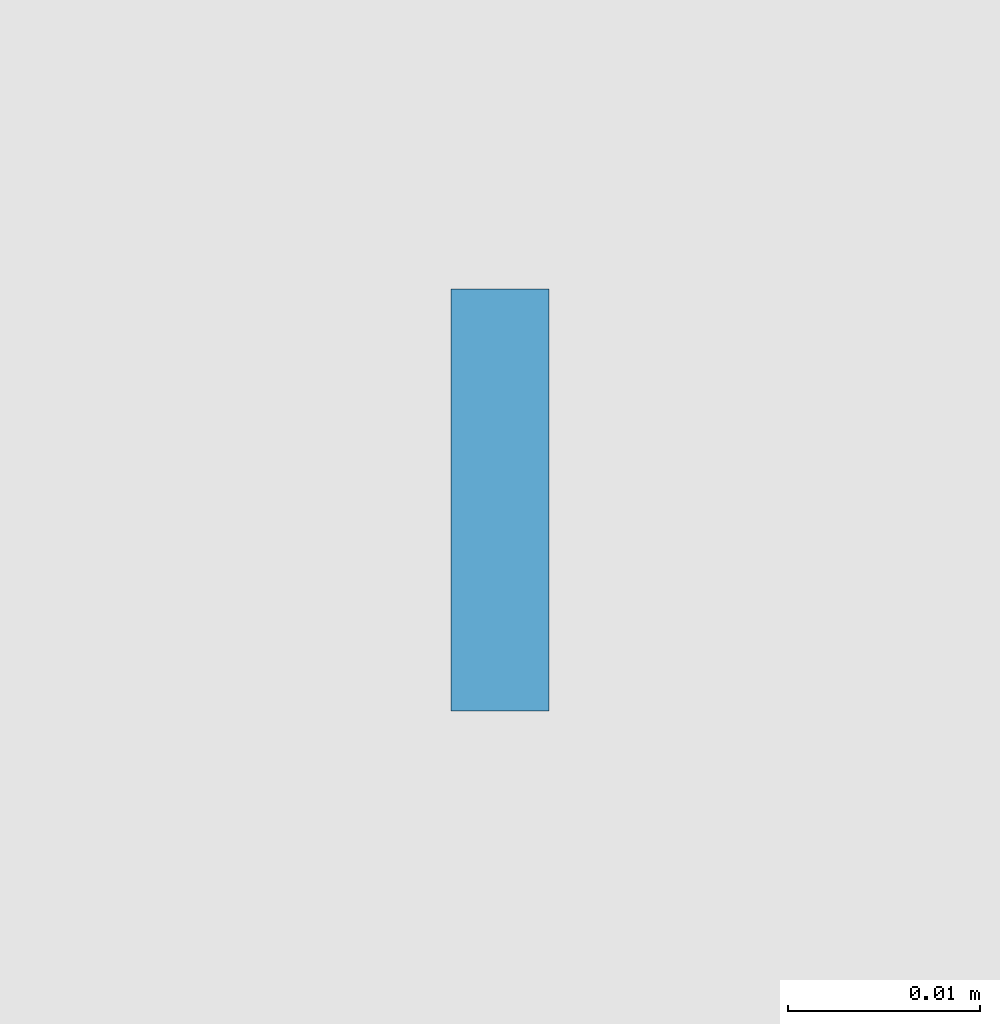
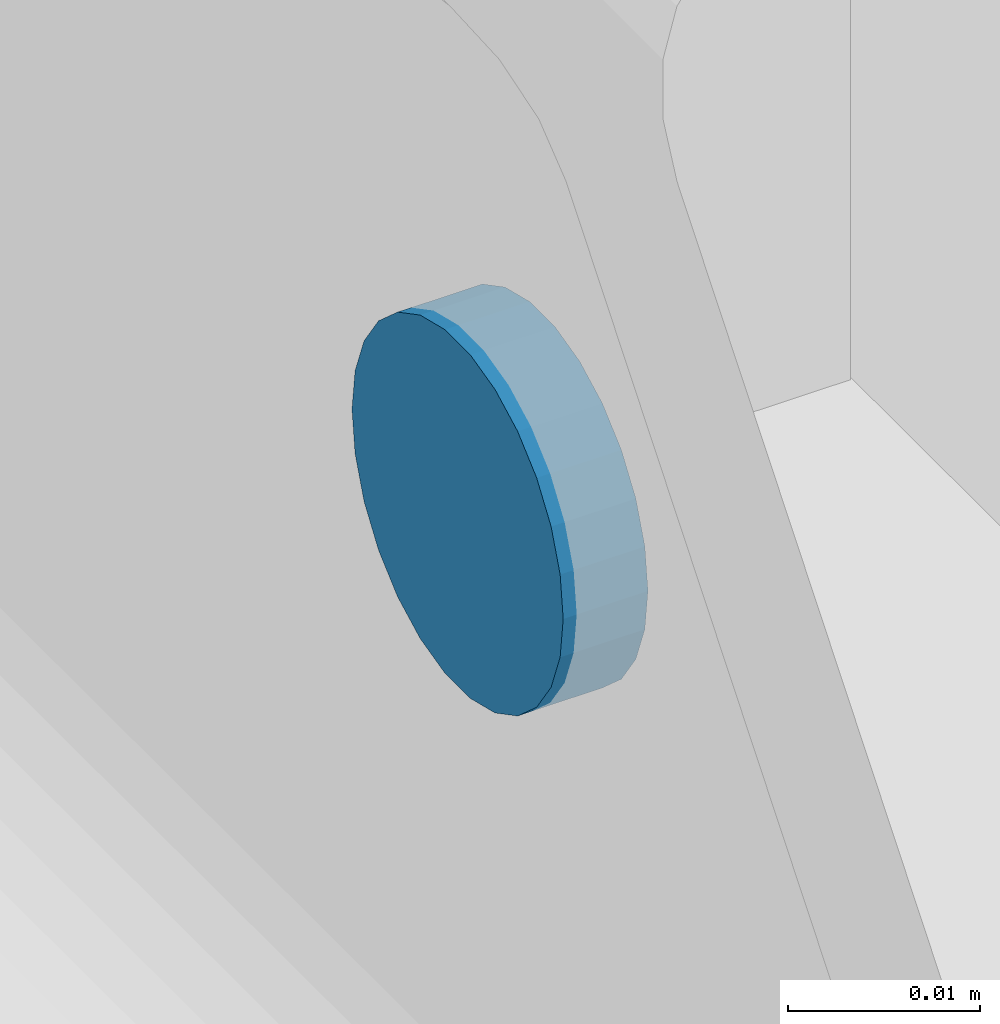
# One storey, part 297 of 362: 1 mechanical fastener.
"""IFC2X3 building model written with IfcOpenShell, lengths in millimetres."""

from ifc_helpers import new_model, si_unit, frame, origin_with_axes, origin_2d_with_axis, place, context, subcontext, project, spatial, circle, extrude, source, transform, mapped, material, type_object, element, save


model = new_model("IFC2X3")

# Units and contexts
model_context = context("Model", 3, precision=1e-05, world=origin_with_axes())
body_context = subcontext(model_context, "Body", "Model", "MODEL_VIEW")
ifc_project = project(units=[si_unit("LENGTHUNIT", "METRE", prefix="MILLI"), si_unit("AREAUNIT", "SQUARE_METRE"), si_unit("VOLUMEUNIT", "CUBIC_METRE"), si_unit("MASSUNIT", "GRAM", prefix="KILO"), si_unit("TIMEUNIT", "SECOND"), si_unit("PLANEANGLEUNIT", "RADIAN"), si_unit("SOLIDANGLEUNIT", "STERADIAN"), si_unit("THERMODYNAMICTEMPERATUREUNIT", "DEGREE_CELSIUS"), si_unit("LUMINOUSINTENSITYUNIT", "LUMEN")], contexts=[model_context])

# Site, building, storey
site_placement = place(None, origin_with_axes())
site = spatial("IfcSite", under=ifc_project, at=site_placement, Name="Undefined", CompositionType="ELEMENT")
building_placement = place(site_placement, origin_with_axes())
building = spatial("IfcBuilding", under=site, at=building_placement, Name="Undefined", CompositionType="ELEMENT")
storey_placement = place(building_placement, origin_with_axes())
storey = spatial("IfcBuildingStorey", under=building, at=storey_placement, Name="Undefined", CompositionType="ELEMENT", Elevation=0.0)

# Mechanical fastener
ifc_material = material(Name="6.8")
mechanical_fastener_type = type_object("IfcMechanicalFastenerType", Name="Bolt assembly")
shared_shape = source(origin_with_axes(), body_context, "Body", "SweptSolid", [
    extrude(circle(Radius=11.0, at=origin_2d_with_axis()), frame((0.0, -2.5, 0.0), z_axis=(0.0, 1.0, 0.0), x_axis=(1.0, 0.0, 0.0)), (0.0, 0.0, 1.0), 5.1),
])
mechanical_fastener_placement = place(storey_placement, frame((0.0, 15450.0, 3315.0), z_axis=(0.0, 0.0, 1.0), x_axis=(0.0, -1.0, 0.0)))
element("IfcMechanicalFastener", 1, at=mechanical_fastener_placement, inside=storey, type_object=mechanical_fastener_type, material=ifc_material, Name="Bolt assembly", NominalDiameter=20.0, NominalLength=5.0, context=body_context, shape_type="MappedRepresentation", body=[
    mapped(shared_shape, transform((0.0, 0.0, 0.0))),
])

save(model, "model.ifc")
